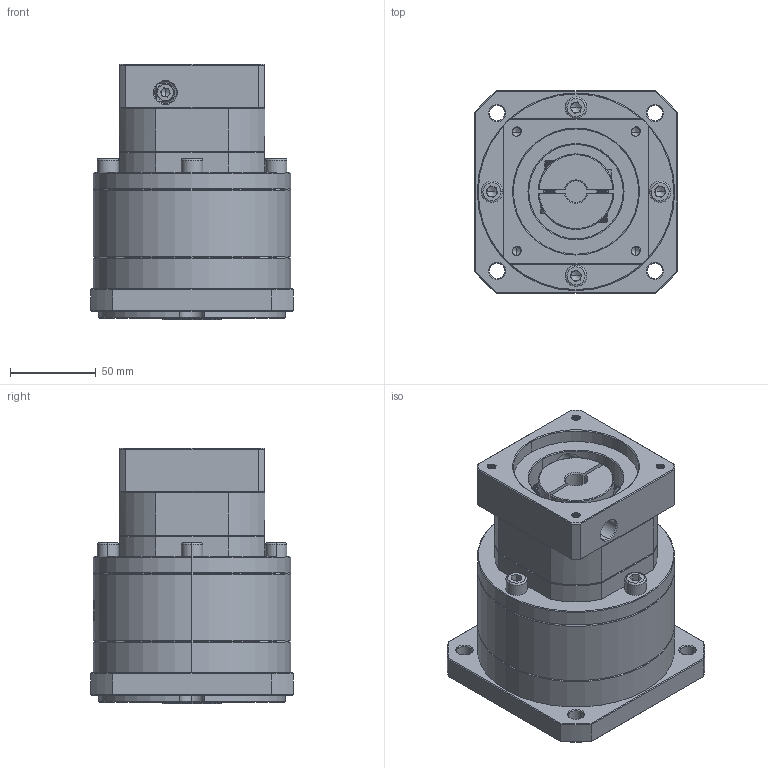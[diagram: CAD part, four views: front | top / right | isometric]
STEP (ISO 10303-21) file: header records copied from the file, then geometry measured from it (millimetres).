
FILE_DESCRIPTION (( 'STEP AP214' ), '1' );
FILE_NAME ('ZF120A-K25-L2-P2-12.7-73-69.6X69.6-M6.step', '2023-08-27T06:01:16', ( '' ), ( '' ), 'SwSTEP 2.0', 'SolidWorks 2016', '' );
FILE_SCHEMA (( 'AUTOMOTIVE_DESIGN' ));
Length unit declared in the file: millimetre
Products named in the file (1): ZF120A-K25-L2-P2-12.7-73-69.6X69.6-M6
Bounding box: 118 x 118 x 149 mm (x, y, z)
Volume: 1232186.2 mm3; surface area: 125812.3 mm2
Topology: 5 solids, 6 shells, 2153 faces, 5723 edges, 3669 vertices
Faces by surface type: plane 1053, bspline 410, cylinder 369, cone 306, torus 15
Entity records: 115527 total; most frequent: CARTESIAN_POINT 43542, ORIENTED_EDGE 11390, DIRECTION 8228, EDGE_CURVE 5695, VERTEX_POINT 3669, VECTOR 3046, LINE 3046, AXIS2_PLACEMENT_3D 2591
